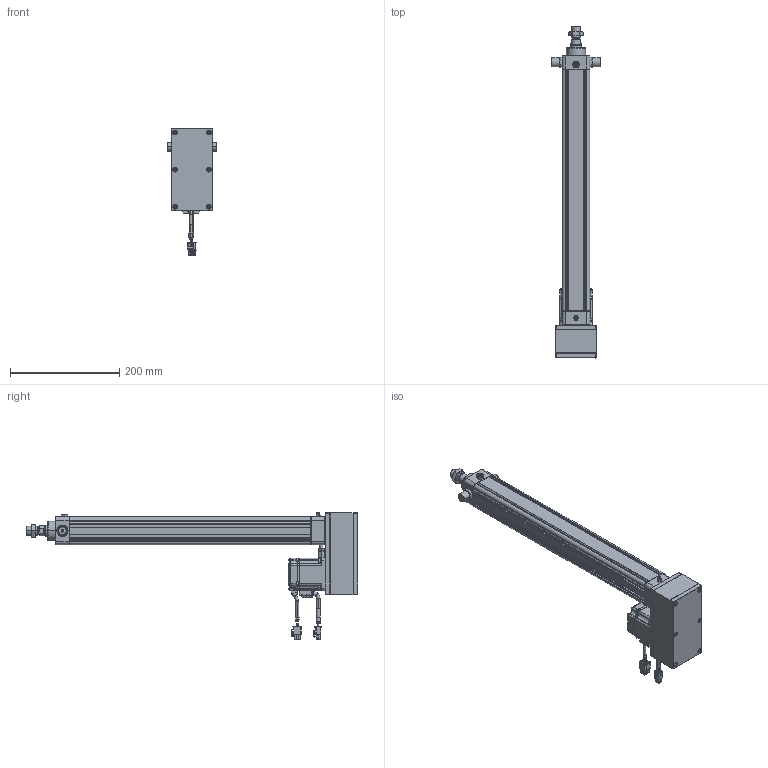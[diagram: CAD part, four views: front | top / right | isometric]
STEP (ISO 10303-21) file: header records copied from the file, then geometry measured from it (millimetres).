
FILE_DESCRIPTION((''),'2;1');
FILE_NAME('HE40-D-100_ASM','2020-05-26T',('ASUS20200'),(''),'CREO PARAMETRIC BY PTC INC, 2014190','CREO PARAMETRIC BY PTC INC, 2014190','');
FILE_SCHEMA(('CONFIG_CONTROL_DESIGN'));
Products named in the file (33): HE40-D-P-001-X1; HE40-D-P-002-X1; HE40-D-P-003-X1; 6200ZZ; SLM-01; YZ-M6X1; JDB202820; HE40-P-010-X1-200W; _MHMF022L1A2; _CABLE_MOTOR_BOTTOM_03; _CABLE_MOTOR_TOP_03; _MOTOR_CONNECTOR_2; _CABLE_BRAKE_BOTTOM_03; _CABLE_BRAKE_TOP_03; _MHMF_CONNECTOR_9_PIN_A6; MHMF022L1A2M2_1_ASM; MHMF022L1A2M2_ASM; JX5X5X20; TD-5; M5X20; LM-M6X1; M6X25; LM-M6-15; M6; HE40-P-012-X2; HE40-P-014-X1; M4X65; HE40-TC; HE40-D-P-005-X1; HE40-D-P-004-X1; HE40-D-P-008-X1; LGLM-M6-22; HE40-D-100_ASM
Assembly tree (50 placements, depth 4):
  HE40-D-100_ASM
    HE40-D-P-001-X1
    HE40-D-P-002-X1
    HE40-D-P-003-X1
    6200ZZ
    SLM-01
    YZ-M6X1
    JDB202820
    HE40-P-010-X1-200W
    MHMF022L1A2M2_ASM
      MHMF022L1A2M2_1_ASM
        _MHMF022L1A2
        _CABLE_MOTOR_BOTTOM_03
        _CABLE_MOTOR_TOP_03
        _MOTOR_CONNECTOR_2
        _CABLE_BRAKE_BOTTOM_03
        _CABLE_BRAKE_TOP_03
        _MHMF_CONNECTOR_9_PIN_A6
    JX5X5X20
    TD-5  x4
    M5X20  x4
    LM-M6X1  x4
    M6X25
    LM-M6-15
    M6
    HE40-P-012-X2
    HE40-P-014-X1
    M4X65  x6
    HE40-TC  x2
    HE40-D-P-005-X1
    HE40-D-P-004-X1
    HE40-D-P-008-X1
    LGLM-M6-22  x4
Bounding box: 91 x 607.5 x 232.7 mm (x, y, z)
Volume: 1143468 mm3; surface area: 434634.7 mm2
Topology: 48 solids, 77 shells, 2895 faces, 6922 edges, 4267 vertices
Faces by surface type: plane 1228, cylinder 795, cone 692, torus 142, sphere 34, bspline 4
Entity records: 74910 total; most frequent: CARTESIAN_POINT 14584, DIRECTION 13161, ORIENTED_EDGE 11876, EDGE_CURVE 5996, AXIS2_PLACEMENT_3D 4901, VERTEX_POINT 3733, VECTOR 3359, LINE 3359
